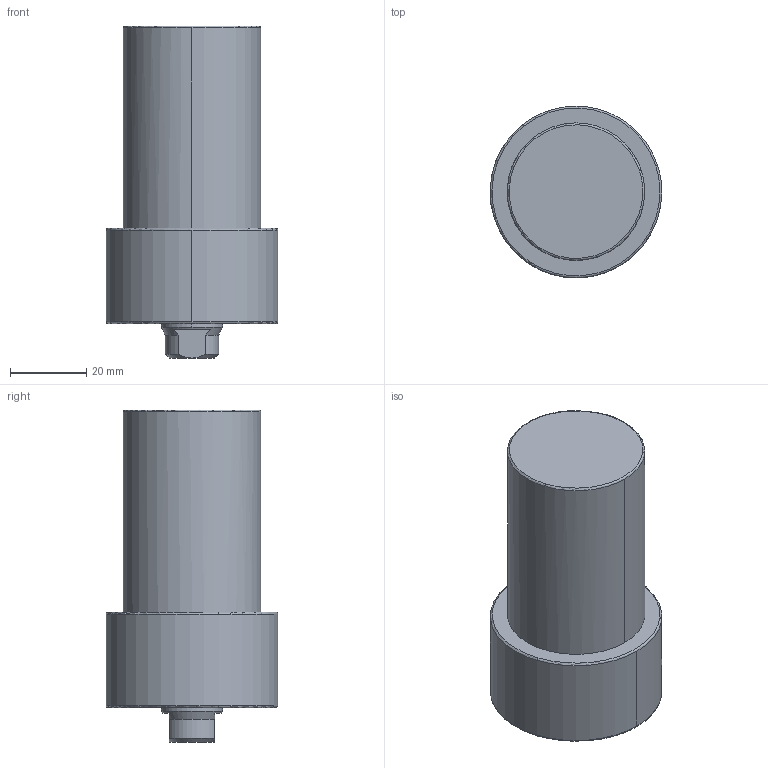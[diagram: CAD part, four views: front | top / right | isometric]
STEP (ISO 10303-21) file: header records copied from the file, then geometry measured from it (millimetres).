
FILE_DESCRIPTION((' '),'2;1');
FILE_NAME( 'TLLU-036GA-045.STEP.stp', '2025-10-24T16:37:04', (' '), ('--- Datakit www.datakit.com---'), ' Datakit CrossCadWare V2024.1 Dec 21 2023', 'Mastercam 2025', ' ');
FILE_SCHEMA(('AUTOMOTIVE_DESIGN { 1 0 10303 214 1 1 1 1 }'));
Length unit declared in the file: millimetre
Products named in the file (1): TLLU-036GA-045
Bounding box: 44.99 x 45 x 87 mm (x, y, z)
Volume: 94114.1 mm3; surface area: 13825.9 mm2
Topology: 1 solids, 1 shells, 62 faces, 172 edges, 111 vertices
Faces by surface type: cone 24, cylinder 22, plane 10, torus 6
Entity records: 2034 total; most frequent: DIRECTION 386, CARTESIAN_POINT 380, ORIENTED_EDGE 324, AXIS2_PLACEMENT_3D 169, EDGE_CURVE 162, VERTEX_POINT 111, CIRCLE 106, EDGE_LOOP 71
